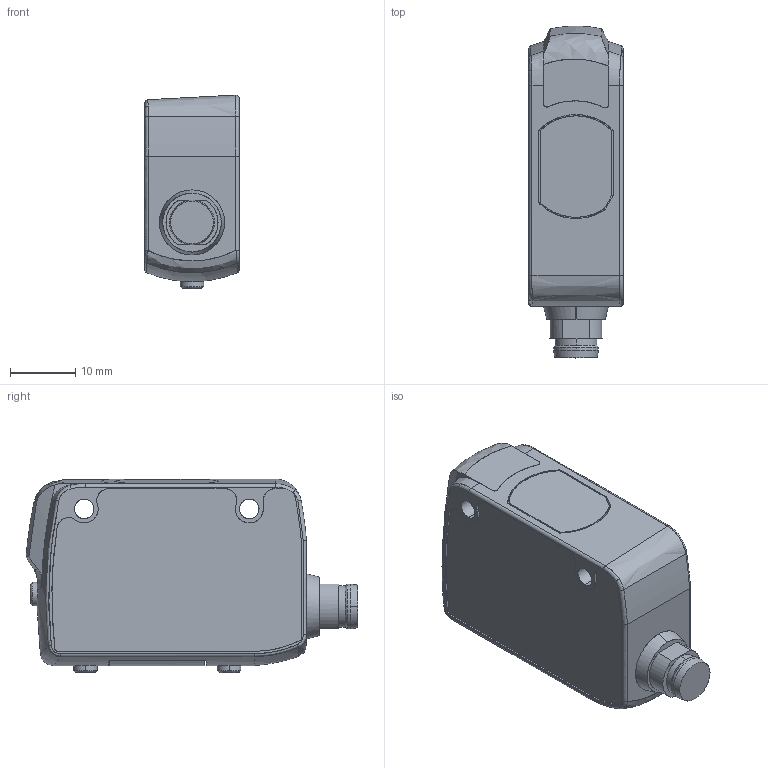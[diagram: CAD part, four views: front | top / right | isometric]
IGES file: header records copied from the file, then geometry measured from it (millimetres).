
Start section: SolidWorks IGES file using analytic representation for surfaces
Global section: file name: C:\吉田\キーエンス\0803\作業\3D\LR-ZH500C.IGS; native system: SolidWorks 2012; preprocessor: SolidWorks 2012; author: TECHNO SONIC; date: 160805.193833; units: millimetre
Bounding box: 14.5 x 51.06 x 29.77 mm (x, y, z)
Surface area: 4647.3 mm2 (no closed solid volume)
Topology: 0 solids, 0 shells, 175 faces, 2038 edges, 2038 vertices
Faces by surface type: revolution 93, bspline 82
